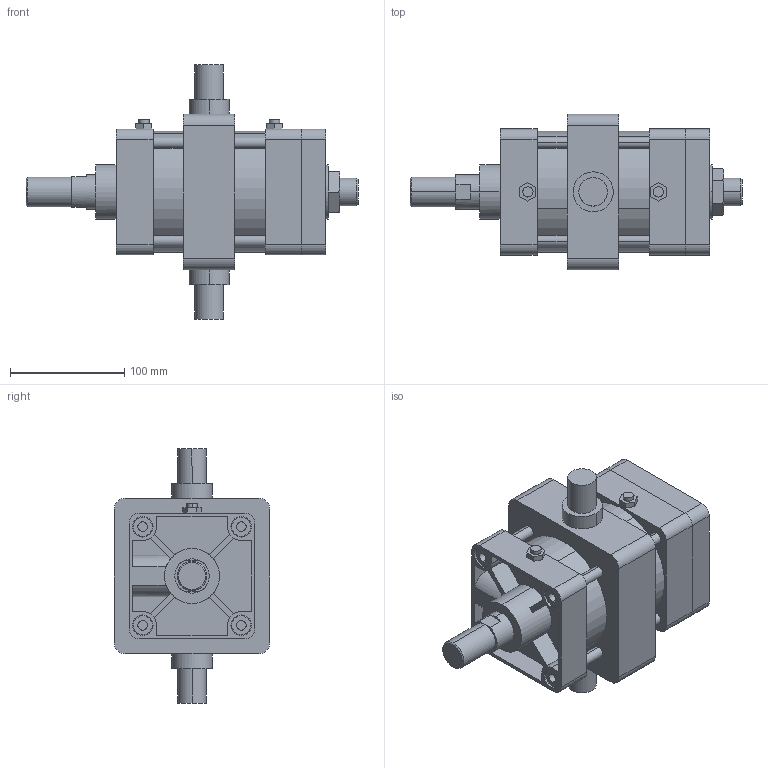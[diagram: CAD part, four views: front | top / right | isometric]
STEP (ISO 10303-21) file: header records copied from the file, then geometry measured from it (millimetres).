
FILE_DESCRIPTION (( 'STEP AP203' ), '1' );
FILE_NAME ('KGA2-100#-50-T.STEP', '2016-04-14T07:47:05', ( '' ), ( '' ), 'SwSTEP 2.0', 'SolidWorks 2014', '' );
FILE_SCHEMA (( 'CONFIG_CONTROL_DESIGN' ));
Length unit declared in the file: millimetre
Products named in the file (8): KGA2-100#-50-T; K-100-T; KG2-100-After; KGLH2-100-50; KGA2-100-After
Assembly tree (17 placements, depth 2):
  KGA2-100#-50-T
    KG2-100-After
    KGLH2-100-50
    (unnamed)
    (unnamed)  x4
    (unnamed)  x8
    K-100-T
    KGA2-100-After
Bounding box: 290 x 136 x 222 mm (x, y, z)
Volume: 2233308 mm3; surface area: 314044.6 mm2
Topology: 17 solids, 17 shells, 376 faces, 889 edges, 570 vertices
Faces by surface type: plane 157, cylinder 153, torus 38, cone 28
Entity records: 9832 total; most frequent: CARTESIAN_POINT 1685, DIRECTION 1561, ORIENTED_EDGE 1398, EDGE_CURVE 699, AXIS2_PLACEMENT_3D 590, VERTEX_POINT 460, LINE 381, VECTOR 381
